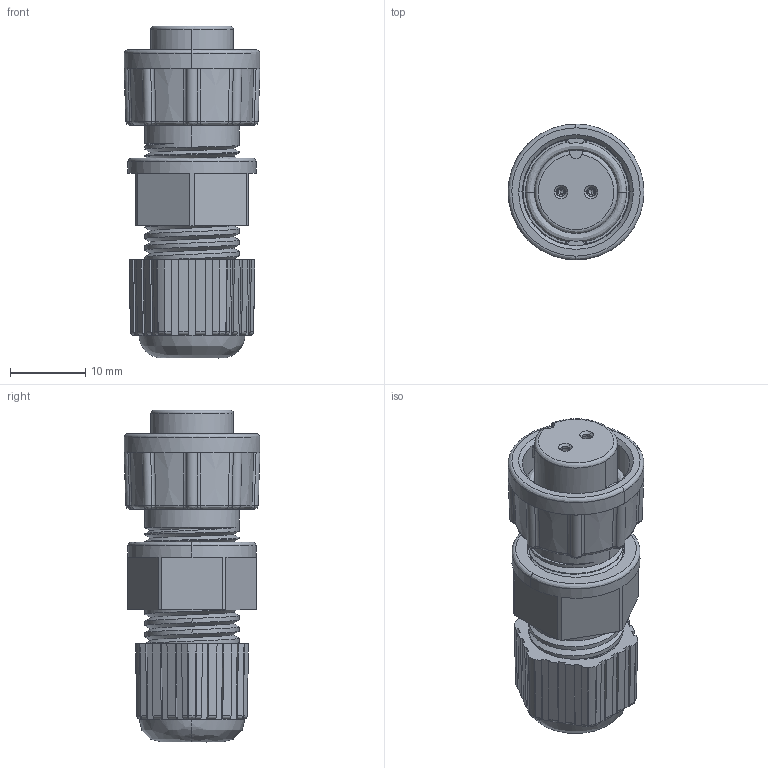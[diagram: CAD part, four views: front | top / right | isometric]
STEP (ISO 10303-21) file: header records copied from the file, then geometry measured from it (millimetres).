
FILE_DESCRIPTION (( 'STEP AP203' ), '1' );
FILE_NAME ('868-02B-203KIT.STEP', '2024-06-13T20:00:33', ( '' ), ( '' ), 'SwSTEP 2.0', 'SolidWorks 2020', '' );
FILE_SCHEMA (( 'CONFIG_CONTROL_DESIGN' ));
Length unit declared in the file: millimetre
Products named in the file (1): 868-02B-203KIT
Bounding box: 18 x 18 x 44 mm (x, y, z)
Volume: 5809.5 mm3; surface area: 6460.4 mm2
Topology: 2 solids, 2 shells, 497 faces, 1340 edges, 852 vertices
Faces by surface type: plane 193, cylinder 155, bspline 95, cone 54
Entity records: 28389 total; most frequent: CARTESIAN_POINT 17153, ORIENTED_EDGE 2664, DIRECTION 1890, EDGE_CURVE 1332, VERTEX_POINT 852, AXIS2_PLACEMENT_3D 722, EDGE_LOOP 518, B_SPLINE_CURVE_WITH_KNOTS 513
